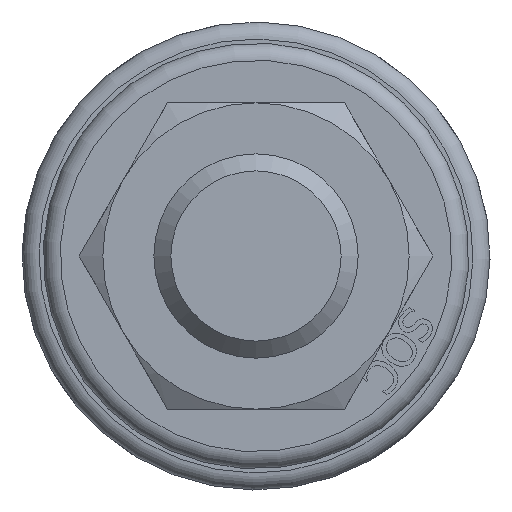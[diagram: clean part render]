
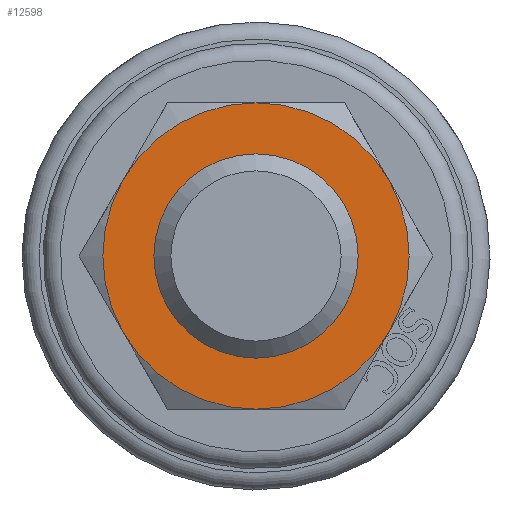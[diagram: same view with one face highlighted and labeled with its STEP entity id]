
A CAD part, front view. The second image highlights one B-rep face of the part: STEP entity #12598.
In plain terms, the highlighted planar face has unit normal (0, -1, 0) as drawn and (-1, 0, 0) by its records, which use the part's own axes.
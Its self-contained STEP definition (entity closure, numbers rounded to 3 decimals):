
#130=CIRCLE('',#13058,12.);
#132=CIRCLE('',#13062,18.);
#133=CIRCLE('',#13063,18.);
#134=CIRCLE('',#13064,18.);
#135=CIRCLE('',#13065,18.);
#136=CIRCLE('',#13066,18.);
#137=CIRCLE('',#13067,18.);
#220=FACE_BOUND('',#2765,.T.);
#1986=FACE_OUTER_BOUND('',#2764,.T.);
#2764=EDGE_LOOP('',(#11532,#11533,#11534,#11535,#11536,#11537));
#2765=EDGE_LOOP('',(#11538));
#6090=VERTEX_POINT('',#23333);
#6092=VERTEX_POINT('',#23339);
#6093=VERTEX_POINT('',#23340);
#6094=VERTEX_POINT('',#23342);
#6095=VERTEX_POINT('',#23344);
#6096=VERTEX_POINT('',#23346);
#6097=VERTEX_POINT('',#23348);
#7909=EDGE_CURVE('',#6090,#6090,#130,.T.);
#7911=EDGE_CURVE('',#6092,#6093,#132,.T.);
#7912=EDGE_CURVE('',#6093,#6094,#133,.T.);
#7913=EDGE_CURVE('',#6094,#6095,#134,.T.);
#7914=EDGE_CURVE('',#6095,#6096,#135,.T.);
#7915=EDGE_CURVE('',#6096,#6097,#136,.T.);
#7916=EDGE_CURVE('',#6097,#6092,#137,.T.);
#11532=ORIENTED_EDGE('',*,*,#7911,.T.);
#11533=ORIENTED_EDGE('',*,*,#7912,.T.);
#11534=ORIENTED_EDGE('',*,*,#7913,.T.);
#11535=ORIENTED_EDGE('',*,*,#7914,.T.);
#11536=ORIENTED_EDGE('',*,*,#7915,.T.);
#11537=ORIENTED_EDGE('',*,*,#7916,.T.);
#11538=ORIENTED_EDGE('',*,*,#7909,.F.);
#11915=PLANE('',#13061);
#12598=ADVANCED_FACE('',(#1986,#220),#11915,.F.);
#13058=AXIS2_PLACEMENT_3D('',#23334,#14825,#14826);
#13061=AXIS2_PLACEMENT_3D('',#23338,#14831,#14832);
#13062=AXIS2_PLACEMENT_3D('',#23341,#14833,#14834);
#13063=AXIS2_PLACEMENT_3D('',#23343,#14835,#14836);
#13064=AXIS2_PLACEMENT_3D('',#23345,#14837,#14838);
#13065=AXIS2_PLACEMENT_3D('',#23347,#14839,#14840);
#13066=AXIS2_PLACEMENT_3D('',#23349,#14841,#14842);
#13067=AXIS2_PLACEMENT_3D('',#23350,#14843,#14844);
#14825=DIRECTION('center_axis',(-1.,0.,0.));
#14826=DIRECTION('ref_axis',(0.,0.,-1.));
#14831=DIRECTION('center_axis',(1.,0.,0.));
#14832=DIRECTION('ref_axis',(0.,0.,-1.));
#14833=DIRECTION('center_axis',(-1.,0.,0.));
#14834=DIRECTION('ref_axis',(0.,1.,0.));
#14835=DIRECTION('center_axis',(-1.,0.,0.));
#14836=DIRECTION('ref_axis',(0.,1.,0.));
#14837=DIRECTION('center_axis',(-1.,0.,0.));
#14838=DIRECTION('ref_axis',(0.,1.,0.));
#14839=DIRECTION('center_axis',(-1.,0.,0.));
#14840=DIRECTION('ref_axis',(0.,1.,0.));
#14841=DIRECTION('center_axis',(-1.,0.,0.));
#14842=DIRECTION('ref_axis',(0.,1.,0.));
#14843=DIRECTION('center_axis',(-1.,0.,0.));
#14844=DIRECTION('ref_axis',(0.,1.,0.));
#23333=CARTESIAN_POINT('',(0.,0.,12.));
#23334=CARTESIAN_POINT('Origin',(0.,0.,0.));
#23338=CARTESIAN_POINT('Origin',(0.,0.,0.));
#23339=CARTESIAN_POINT('',(0.,-15.588,-9.));
#23340=CARTESIAN_POINT('',(0.,-15.588,9.));
#23341=CARTESIAN_POINT('Origin',(0.,0.,0.));
#23342=CARTESIAN_POINT('',(0.,0.,18.));
#23343=CARTESIAN_POINT('Origin',(0.,0.,0.));
#23344=CARTESIAN_POINT('',(0.,15.588,9.));
#23345=CARTESIAN_POINT('Origin',(0.,0.,0.));
#23346=CARTESIAN_POINT('',(0.,15.588,-9.));
#23347=CARTESIAN_POINT('Origin',(0.,0.,0.));
#23348=CARTESIAN_POINT('',(0.,0.,-18.));
#23349=CARTESIAN_POINT('Origin',(0.,0.,0.));
#23350=CARTESIAN_POINT('Origin',(0.,0.,0.));
